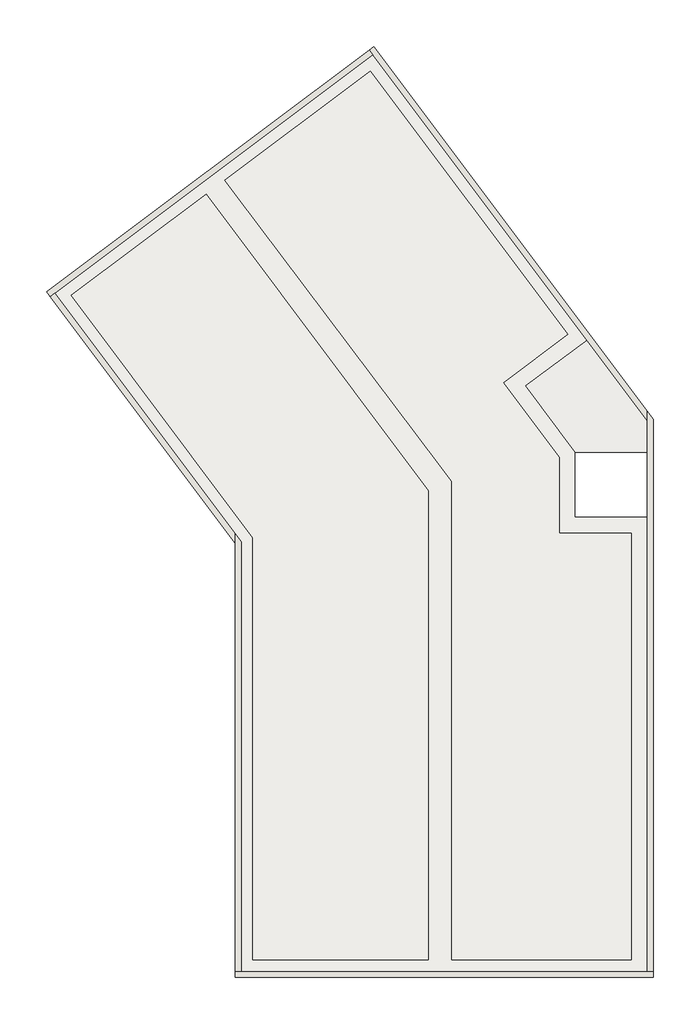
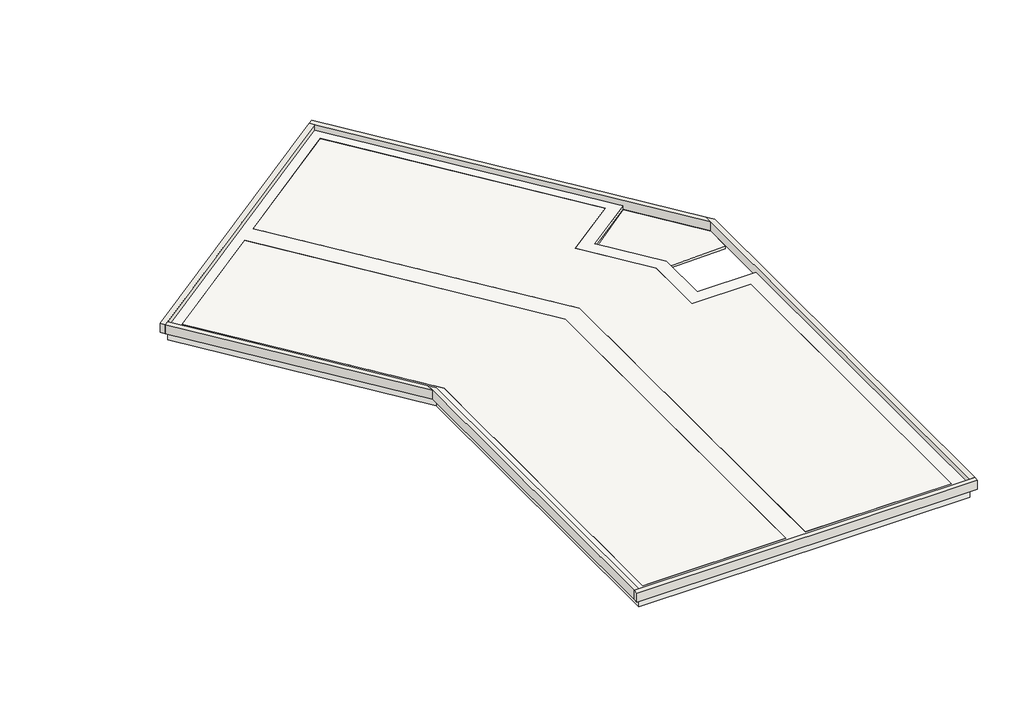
# One storey: 6 walls, 3 slabs, 1 roof.
"""IFC4 building model written with IfcOpenShell, lengths in millimetres."""

from ifc_helpers import new_model, si_unit, frame, origin, place, context, project, spatial, polyline, outline, extrude, faceted_brep, element, save

model = new_model("IFC4")

# Units and contexts
model_context = context("Model", 3, world=origin())
ifc_project = project(units=[si_unit("LENGTHUNIT", "METRE", prefix="MILLI")], contexts=[model_context])

# Site, building, storey
site = spatial("IfcSite", under=ifc_project)
building = spatial("IfcBuilding", under=site)
storey = spatial("IfcBuildingStorey", under=building, Name="2 Toiture fini Cdl 6.45", Elevation=7450.0)

# Roof
placement = place(None, origin())
element("IfcRoof", 1, ObjectType="A Bac acier 3.1 %", at=placement, inside=storey, context=model_context, shape_type="Brep", body=[
    faceted_brep([(-2202.1263835, 3957.094464, 7145.7820574), (-124.2692926, 5514.9493635, 7226.4885935), (1936.9234173, 2765.7434591, 7226.5732926), (1936.9234173, 1701.0741978, 7206.7467369), (-513.4888977, 1701.0741978, 7145.7820574), (-124.2692926, 5514.9493635, 7326.5368704), (-2202.1263835, 3957.094464, 7245.8303343), (-513.4888977, 1701.0741978, 7245.8303343), (1936.9234173, 1701.0741978, 7306.7950138), (1936.9234173, 2765.7434591, 7326.6215695)], [[[0, 1, 2, 3, 4]], [[5, 6, 7, 8, 9]], [[4, 7, 6, 0]], [[6, 5, 1, 0]], [[8, 7, 4, 3]], [[9, 8, 3, 2]], [[5, 9, 2, 1]]]),
])

# Slabs
element("IfcSlab", 2, ObjectType="A  Etanchéité 2 + isolant 18 + dalle ba 21", at=placement, inside=storey, context=model_context, shape_type="Brep", body=[
    faceted_brep([(1936.9234173, -507.3355845, 6950.0), (1936.9234173, -762.3564392, 6950.0), (1936.9234173, -14176.4188476, 6950.0), (1936.9234173, -15948.5662223, 6950.0), (-11865.9579574, -15948.5662223, 6950.0), (-11865.9579574, -1331.1954185, 6950.0), (-18196.9893417, 7113.1014429, 6950.0), (-7394.6044264, 15212.0869532, 6950.0), (-124.268211, 5514.9501745, 6950.0), (-2202.5042361, 3956.8124497, 6950.0), (-518.0765827, 1710.1334139, 6950.0), (-518.0765827, -507.3355845, 6950.0), (1936.9234173, -507.3355845, 7350.0), (-518.0765827, -507.3355845, 7350.0), (-518.0765827, 1710.1334139, 7350.0), (-2202.5042361, 3956.8124497, 7350.0), (-124.268211, 5514.9501745, 7350.0), (-7394.6044264, 15212.0869532, 7350.0), (-18196.9893417, 7113.1014429, 7350.0), (-11865.9579574, -1331.1954185, 7350.0), (-11865.9579574, -15948.5662223, 7350.0), (1936.9234173, -15948.5662223, 7350.0), (1936.9234173, -14176.4188476, 7350.0), (1936.9234173, -762.3564392, 7350.0)], [[[0, 1, 2, 3, 4, 5, 6, 7, 8, 9, 10, 11]], [[12, 13, 14, 15, 16, 17, 18, 19, 20, 21, 22, 23]], [[3, 2, 1, 0, 12, 23, 22, 21]], [[4, 3, 21, 20]], [[5, 4, 20, 19]], [[6, 5, 19, 18]], [[7, 6, 18, 17]], [[8, 7, 17, 16]], [[9, 8, 16, 15]], [[10, 9, 15, 14]], [[11, 10, 14, 13]], [[0, 11, 13, 12]]]),
])
element("IfcSlab", 3, ObjectType="A végétalisée", at=placement, inside=storey, context=model_context, shape_type="SweptSolid", body=[
    extrude(outline(polyline([(1396.9234173, -1049.0159246), (1396.9234173, -15548.5662223), (-4703.0765827, -15548.5662223), (-4703.0765827, 714.7793983), (-12416.4888153, 10950.8231586), (-7474.6974403, 14652.1002488), (-768.2356757, 5707.0562913), (-2958.4852095, 4064.937502), (-1058.0765827, 1530.1843989), (-1058.0765827, -1049.0159246), (1396.9234173, -1049.0159246)])), frame((0.0, 0.0, 7350.0), z_axis=(0.0, 0.0, 1.0), x_axis=(1.0, 0.0, 0.0)), (0.0, 0.0, 1.0), 150.0),
    extrude(outline(polyline([(-5503.0765827, -15548.5662223), (-11465.9579574, -15548.5662223), (-11465.9579574, -1197.8989948), (-17637.0026373, 7033.008429), (-13053.0700673, 10466.2583008), (-5503.0765827, 394.5912557), (-5503.0765827, -15548.5662223)])), frame((0.0, 0.0, 7350.0), z_axis=(0.0, 0.0, 1.0), x_axis=(1.0, 0.0, 0.0)), (0.0, 0.0, 1.0), 150.0),
])
element("IfcSlab", 4, ObjectType="A graviers 15", at=placement, inside=storey, context=model_context, shape_type="SweptSolid", body=[
    extrude(outline(polyline([(1936.9234173, -15948.5662223), (-11865.9579574, -15948.5662223), (-11865.9579574, -1331.1954185), (-18196.9893417, 7113.1014429), (-7394.6044264, 15212.0869532), (-124.2683159, 5514.9503144), (-2202.503116, 3956.8122307), (-518.0765827, 1710.1346889), (-518.0765827, -507.2993249), (1936.9234173, -507.2993249), (1936.9234173, -15948.5662223)]), holes=[polyline([(-5503.0765827, -15548.5662223), (-5503.0765827, 394.5912557), (-13054.504932, 10468.1724057), (-17637.0026373, 7033.008429), (-11465.9579574, -1197.8989948), (-11465.9579574, -15548.5662223), (-5503.0765827, -15548.5662223)]), polyline([(-4703.0765827, -15548.5662223), (1396.9234173, -15548.5662223), (1396.9234173, -1047.2993249), (-1058.0765827, -1047.2993249), (-1058.0765827, 1530.1843989), (-2958.4852095, 4064.937502), (-768.3304262, 5706.985253), (-7470.4042513, 14655.315739), (-12416.4888153, 10950.8231586), (-4703.0765827, 714.7793983), (-4703.0765827, -15548.5662223)])]), frame((0.0, 0.0, 7350.0), z_axis=(0.0, 0.0, 1.0), x_axis=(1.0, 0.0, 0.0)), (0.0, 0.0, 1.0), 150.0),
])

# Walls
element("IfcWall", 5, ObjectType="A Béton 20", at=placement, inside=storey, context=model_context, shape_type="Brep", body=[
    faceted_brep([(2136.9234173, -15948.5662223, 7350.0), (1936.9234173, -15948.5662223, 7350.0), (-11865.9579574, -15948.5662223, 7350.0), (-12065.9579574, -15948.5662223, 7350.0), (-12065.9579574, -15948.5662223, 7750.0), (-11865.9579574, -15948.5662223, 7750.0), (1936.9234173, -15948.5662223, 7750.0), (2136.9234173, -15948.5662223, 7750.0), (2136.9234173, -16148.5662223, 7350.0), (2136.9234173, -16148.5662223, 7750.0), (-12065.9579574, -16148.5662223, 7750.0), (-12065.9579574, -16148.5662223, 7350.0)], [[[0, 1, 2, 3, 4, 5, 6, 7]], [[8, 9, 10, 11]], [[3, 2, 1, 0, 8, 11]], [[7, 6, 5, 4, 10, 9]], [[0, 7, 9, 8]], [[4, 3, 11, 10]]]),
])
element("IfcWall", 6, ObjectType="A Béton 20", at=placement, inside=storey, context=model_context, shape_type="Brep", body=[
    faceted_brep([(1936.9234173, 3099.1506348, 7350.0), (1936.9234173, 2765.7434591, 7350.0), (1936.9234173, -15948.5662223, 7350.0), (1936.9234173, -15948.5662223, 7750.0), (1936.9234173, 2765.7434591, 7750.0), (1936.9234173, 3099.1506348, 7750.0), (2136.9234173, 2832.3916709, 7350.0), (2136.9234173, 2832.3916709, 7750.0), (2136.9234173, -15948.5662223, 7750.0), (2136.9234173, -15948.5662223, 7350.0)], [[[0, 1, 2, 3, 4, 5]], [[6, 7, 8, 9]], [[2, 1, 0, 6, 9]], [[5, 4, 3, 8, 7]], [[3, 2, 9, 8]], [[0, 5, 7, 6]]]),
])
element("IfcWall", 7, ObjectType="A Béton 20", at=placement, inside=storey, context=model_context, shape_type="Brep", body=[
    faceted_brep([(-12065.9579574, -1064.4364546, 7350.0), (-12065.9579574, -1397.8436303, 7350.0), (-12065.9579574, -15948.5662223, 7350.0), (-12065.9579574, -15948.5662223, 7750.0), (-12065.9579574, -1397.8436303, 7750.0), (-12065.9579574, -1064.4364546, 7750.0), (-11865.9579574, -1331.1954185, 7350.0), (-11865.9579574, -1331.1954185, 7750.0), (-11865.9579574, -15948.5662223, 7750.0), (-11865.9579574, -15948.5662223, 7350.0)], [[[0, 1, 2, 3, 4, 5]], [[6, 7, 8, 9]], [[2, 1, 0, 6, 9]], [[5, 4, 3, 8, 7]], [[3, 2, 9, 8]], [[0, 5, 7, 6]]]),
])
element("IfcWall", 8, ObjectType="A Béton 20", at=placement, inside=storey, context=model_context, shape_type="Brep", body=[
    faceted_brep([(1936.9234173, 3099.1506348, 7350.0), (-7354.5579195, 15492.0803054, 7350.0), (-7354.5579195, 15492.0803054, 7750.0), (1936.9234173, 3099.1506348, 7750.0), (1936.9234173, 2765.7434591, 7350.0), (1936.9234173, 2765.7434591, 7750.0), (-7394.6044264, 15212.0869532, 7750.0), (-7514.577849, 15372.1068828, 7750.0), (-7514.577849, 15372.1068828, 7350.0), (-7394.6044264, 15212.0869532, 7350.0)], [[[0, 1, 2, 3]], [[4, 5, 6, 7, 8, 9]], [[1, 0, 4, 9, 8]], [[3, 2, 7, 6, 5]], [[0, 3, 5, 4]], [[2, 1, 8, 7]]]),
])
element("IfcWall", 9, ObjectType="A Béton 20", at=placement, inside=storey, context=model_context, shape_type="Brep", body=[
    faceted_brep([(-7514.577849, 15372.1068828, 7350.0), (-18476.982694, 7153.1479498, 7350.0), (-18476.982694, 7153.1479498, 7750.0), (-7514.577849, 15372.1068828, 7750.0), (-7394.6044264, 15212.0869532, 7350.0), (-7394.6044264, 15212.0869532, 7750.0), (-18196.9893417, 7113.1014429, 7750.0), (-18357.0092713, 6993.1280202, 7750.0), (-18357.0092713, 6993.1280202, 7350.0), (-18196.9893417, 7113.1014429, 7350.0)], [[[0, 1, 2, 3]], [[4, 5, 6, 7, 8, 9]], [[1, 0, 4, 9, 8]], [[3, 2, 7, 6, 5]], [[0, 3, 5, 4]], [[2, 1, 8, 7]]]),
])
element("IfcWall", 10, ObjectType="A Béton 20", at=placement, inside=storey, context=model_context, shape_type="SweptSolid", body=[
    extrude(outline(polyline([(-12065.9579574, -1397.8436303), (-18357.0092713, 6993.1280202), (-18196.9893417, 7113.1014429), (-12065.9579574, -1064.4364546), (-12065.9579574, -1397.8436303)])), frame((0.0, 0.0, 7350.0), z_axis=(0.0, 0.0, 1.0), x_axis=(1.0, 0.0, 0.0)), (0.0, 0.0, 1.0), 400.0),
])

save(model, "model.ifc")
